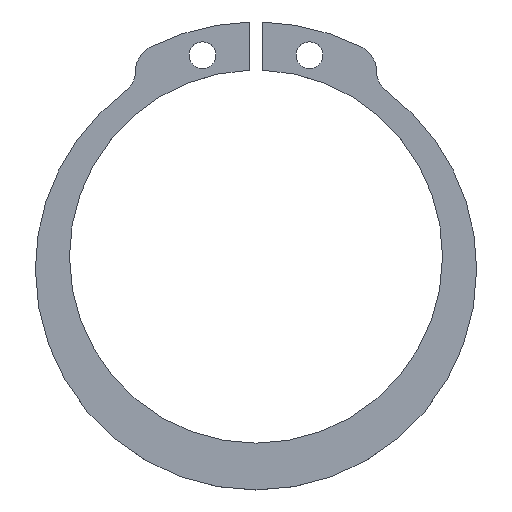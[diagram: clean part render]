
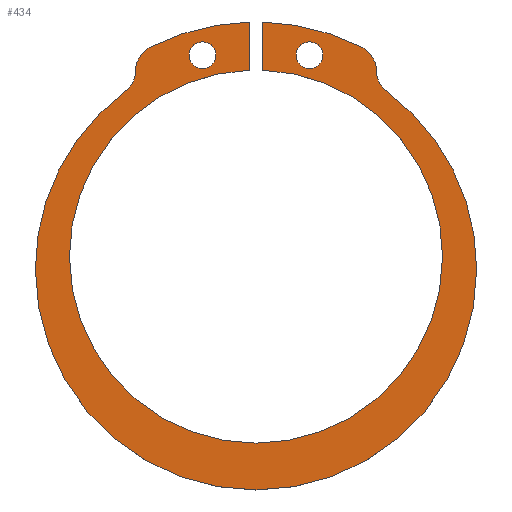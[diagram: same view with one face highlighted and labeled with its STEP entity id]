
A CAD part, top view. The second image highlights one B-rep face of the part: STEP entity #434.
In plain terms, the highlighted planar face has unit normal (0, 0, 1).
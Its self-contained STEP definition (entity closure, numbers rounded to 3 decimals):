
#70=CARTESIAN_POINT('Vertex',(-7.903,15.614,0.75)) ;
#73=CARTESIAN_POINT('Axis2P3D Location',(0.,0.,0.75)) ;
#77=CARTESIAN_POINT('Vertex',(-0.5,17.493,0.75)) ;
#264=CARTESIAN_POINT('Vertex',(-9.,13.829,0.75)) ;
#267=CARTESIAN_POINT('Axis2P3D Location',(-7.,13.829,0.75)) ;
#279=CARTESIAN_POINT('Axis2P3D Location',(-11.,13.874,0.75)) ;
#284=CARTESIAN_POINT('Axis2P3D Location',(-11.,13.874,0.75)) ;
#288=CARTESIAN_POINT('Vertex',(-9.811,12.266,0.75)) ;
#290=CARTESIAN_POINT('Vertex',(-9.,13.874,0.75)) ;
#293=CARTESIAN_POINT('Axis2P3D Location',(0.,-1.,0.75)) ;
#297=CARTESIAN_POINT('Vertex',(-16.5,-1.,0.75)) ;
#300=CARTESIAN_POINT('Axis2P3D Location',(0.,-1.,0.75)) ;
#304=CARTESIAN_POINT('Vertex',(16.5,-1.,0.75)) ;
#307=CARTESIAN_POINT('Axis2P3D Location',(0.,-1.,0.75)) ;
#311=CARTESIAN_POINT('Vertex',(9.811,12.266,0.75)) ;
#314=CARTESIAN_POINT('Axis2P3D Location',(11.,13.874,0.75)) ;
#318=CARTESIAN_POINT('Vertex',(9.,13.874,0.75)) ;
#321=CARTESIAN_POINT('Line Origine',(9.,13.852,0.75)) ;
#325=CARTESIAN_POINT('Vertex',(9.,13.829,0.75)) ;
#328=CARTESIAN_POINT('Axis2P3D Location',(7.,13.829,0.75)) ;
#332=CARTESIAN_POINT('Vertex',(7.903,15.614,0.75)) ;
#335=CARTESIAN_POINT('Axis2P3D Location',(0.,0.,0.75)) ;
#339=CARTESIAN_POINT('Vertex',(0.5,17.493,0.75)) ;
#342=CARTESIAN_POINT('Line Origine',(0.5,15.692,0.75)) ;
#346=CARTESIAN_POINT('Vertex',(0.5,13.891,0.75)) ;
#349=CARTESIAN_POINT('Axis2P3D Location',(0.,-0.05,0.75)) ;
#353=CARTESIAN_POINT('Vertex',(13.95,-0.05,0.75)) ;
#356=CARTESIAN_POINT('Axis2P3D Location',(0.,-0.05,0.75)) ;
#360=CARTESIAN_POINT('Vertex',(-13.95,-0.05,0.75)) ;
#363=CARTESIAN_POINT('Axis2P3D Location',(0.,-0.05,0.75)) ;
#367=CARTESIAN_POINT('Vertex',(-0.5,13.891,0.75)) ;
#370=CARTESIAN_POINT('Line Origine',(-0.5,15.692,0.75)) ;
#375=CARTESIAN_POINT('Line Origine',(-9.,13.852,0.75)) ;
#398=CARTESIAN_POINT('Axis2P3D Location',(4.,15.008,0.75)) ;
#402=CARTESIAN_POINT('Vertex',(3.,15.008,0.75)) ;
#404=CARTESIAN_POINT('Vertex',(5.,15.008,0.75)) ;
#407=CARTESIAN_POINT('Axis2P3D Location',(4.,15.008,0.75)) ;
#416=CARTESIAN_POINT('Axis2P3D Location',(-4.,15.008,0.75)) ;
#420=CARTESIAN_POINT('Vertex',(-5.,15.008,0.75)) ;
#422=CARTESIAN_POINT('Vertex',(-3.,15.008,0.75)) ;
#425=CARTESIAN_POINT('Axis2P3D Location',(-4.,15.008,0.75)) ;
#74=DIRECTION('Axis2P3D Direction',(0.,0.,1.)) ;
#268=DIRECTION('Axis2P3D Direction',(0.,0.,1.)) ;
#280=DIRECTION('Axis2P3D Direction',(0.,0.,1.)) ;
#281=DIRECTION('Axis2P3D XDirection',(1.,0.,-0.)) ;
#285=DIRECTION('Axis2P3D Direction',(0.,0.,1.)) ;
#294=DIRECTION('Axis2P3D Direction',(0.,0.,1.)) ;
#301=DIRECTION('Axis2P3D Direction',(0.,0.,1.)) ;
#308=DIRECTION('Axis2P3D Direction',(0.,0.,1.)) ;
#315=DIRECTION('Axis2P3D Direction',(0.,0.,1.)) ;
#322=DIRECTION('Vector Direction',(0.,-1.,0.)) ;
#329=DIRECTION('Axis2P3D Direction',(0.,0.,1.)) ;
#336=DIRECTION('Axis2P3D Direction',(0.,0.,1.)) ;
#343=DIRECTION('Vector Direction',(0.,-1.,0.)) ;
#350=DIRECTION('Axis2P3D Direction',(0.,0.,1.)) ;
#357=DIRECTION('Axis2P3D Direction',(0.,0.,1.)) ;
#364=DIRECTION('Axis2P3D Direction',(0.,0.,1.)) ;
#371=DIRECTION('Vector Direction',(0.,1.,0.)) ;
#376=DIRECTION('Vector Direction',(0.,1.,0.)) ;
#399=DIRECTION('Axis2P3D Direction',(0.,0.,1.)) ;
#408=DIRECTION('Axis2P3D Direction',(0.,0.,1.)) ;
#417=DIRECTION('Axis2P3D Direction',(0.,0.,1.)) ;
#426=DIRECTION('Axis2P3D Direction',(0.,0.,1.)) ;
#75=AXIS2_PLACEMENT_3D('Circle Axis2P3D',#73,#74,$) ;
#269=AXIS2_PLACEMENT_3D('Circle Axis2P3D',#267,#268,$) ;
#282=AXIS2_PLACEMENT_3D('Plane Axis2P3D',#279,#280,#281) ;
#286=AXIS2_PLACEMENT_3D('Circle Axis2P3D',#284,#285,$) ;
#295=AXIS2_PLACEMENT_3D('Circle Axis2P3D',#293,#294,$) ;
#302=AXIS2_PLACEMENT_3D('Circle Axis2P3D',#300,#301,$) ;
#309=AXIS2_PLACEMENT_3D('Circle Axis2P3D',#307,#308,$) ;
#316=AXIS2_PLACEMENT_3D('Circle Axis2P3D',#314,#315,$) ;
#330=AXIS2_PLACEMENT_3D('Circle Axis2P3D',#328,#329,$) ;
#337=AXIS2_PLACEMENT_3D('Circle Axis2P3D',#335,#336,$) ;
#351=AXIS2_PLACEMENT_3D('Circle Axis2P3D',#349,#350,$) ;
#358=AXIS2_PLACEMENT_3D('Circle Axis2P3D',#356,#357,$) ;
#365=AXIS2_PLACEMENT_3D('Circle Axis2P3D',#363,#364,$) ;
#400=AXIS2_PLACEMENT_3D('Circle Axis2P3D',#398,#399,$) ;
#409=AXIS2_PLACEMENT_3D('Circle Axis2P3D',#407,#408,$) ;
#418=AXIS2_PLACEMENT_3D('Circle Axis2P3D',#416,#417,$) ;
#427=AXIS2_PLACEMENT_3D('Circle Axis2P3D',#425,#426,$) ;
#381=ORIENTED_EDGE('',*,*,#292,.F.) ;
#382=ORIENTED_EDGE('',*,*,#299,.T.) ;
#383=ORIENTED_EDGE('',*,*,#306,.T.) ;
#384=ORIENTED_EDGE('',*,*,#313,.T.) ;
#385=ORIENTED_EDGE('',*,*,#320,.F.) ;
#386=ORIENTED_EDGE('',*,*,#327,.T.) ;
#387=ORIENTED_EDGE('',*,*,#334,.T.) ;
#388=ORIENTED_EDGE('',*,*,#341,.T.) ;
#389=ORIENTED_EDGE('',*,*,#348,.T.) ;
#390=ORIENTED_EDGE('',*,*,#355,.F.) ;
#391=ORIENTED_EDGE('',*,*,#362,.F.) ;
#392=ORIENTED_EDGE('',*,*,#369,.F.) ;
#393=ORIENTED_EDGE('',*,*,#374,.T.) ;
#394=ORIENTED_EDGE('',*,*,#79,.T.) ;
#395=ORIENTED_EDGE('',*,*,#271,.T.) ;
#396=ORIENTED_EDGE('',*,*,#379,.T.) ;
#413=ORIENTED_EDGE('',*,*,#406,.F.) ;
#414=ORIENTED_EDGE('',*,*,#411,.F.) ;
#431=ORIENTED_EDGE('',*,*,#424,.F.) ;
#432=ORIENTED_EDGE('',*,*,#429,.F.) ;
#415=FACE_BOUND('',#412,.T.) ;
#433=FACE_BOUND('',#430,.T.) ;
#323=VECTOR('Line Direction',#322,1.) ;
#344=VECTOR('Line Direction',#343,1.) ;
#372=VECTOR('Line Direction',#371,1.) ;
#377=VECTOR('Line Direction',#376,1.) ;
#434=ADVANCED_FACE('553S-R30',(#397,#415,#433),#283,.T.) ;
#76=CIRCLE('generated circle',#75,17.5) ;
#270=CIRCLE('generated circle',#269,2.) ;
#287=CIRCLE('generated circle',#286,2.) ;
#296=CIRCLE('generated circle',#295,16.5) ;
#303=CIRCLE('generated circle',#302,16.5) ;
#310=CIRCLE('generated circle',#309,16.5) ;
#317=CIRCLE('generated circle',#316,2.) ;
#331=CIRCLE('generated circle',#330,2.) ;
#338=CIRCLE('generated circle',#337,17.5) ;
#352=CIRCLE('generated circle',#351,13.95) ;
#359=CIRCLE('generated circle',#358,13.95) ;
#366=CIRCLE('generated circle',#365,13.95) ;
#401=CIRCLE('generated circle',#400,1.) ;
#410=CIRCLE('generated circle',#409,1.) ;
#419=CIRCLE('generated circle',#418,1.) ;
#428=CIRCLE('generated circle',#427,1.) ;
#79=EDGE_CURVE('',#78,#71,#76,.T.) ;
#271=EDGE_CURVE('',#71,#265,#270,.T.) ;
#292=EDGE_CURVE('',#289,#291,#287,.T.) ;
#299=EDGE_CURVE('',#289,#298,#296,.T.) ;
#306=EDGE_CURVE('',#298,#305,#303,.T.) ;
#313=EDGE_CURVE('',#305,#312,#310,.T.) ;
#320=EDGE_CURVE('',#319,#312,#317,.T.) ;
#327=EDGE_CURVE('',#319,#326,#324,.T.) ;
#334=EDGE_CURVE('',#326,#333,#331,.T.) ;
#341=EDGE_CURVE('',#333,#340,#338,.T.) ;
#348=EDGE_CURVE('',#340,#347,#345,.T.) ;
#355=EDGE_CURVE('',#354,#347,#352,.T.) ;
#362=EDGE_CURVE('',#361,#354,#359,.T.) ;
#369=EDGE_CURVE('',#368,#361,#366,.T.) ;
#374=EDGE_CURVE('',#368,#78,#373,.T.) ;
#379=EDGE_CURVE('',#265,#291,#378,.T.) ;
#406=EDGE_CURVE('',#403,#405,#401,.T.) ;
#411=EDGE_CURVE('',#405,#403,#410,.T.) ;
#424=EDGE_CURVE('',#421,#423,#419,.T.) ;
#429=EDGE_CURVE('',#423,#421,#428,.T.) ;
#380=EDGE_LOOP('',(#381,#382,#383,#384,#385,#386,#387,#388,#389,#390,#391,#392,#393,#394,#395,#396)) ;
#412=EDGE_LOOP('',(#413,#414)) ;
#430=EDGE_LOOP('',(#431,#432)) ;
#397=FACE_OUTER_BOUND('',#380,.T.) ;
#324=LINE('Line',#321,#323) ;
#345=LINE('Line',#342,#344) ;
#373=LINE('Line',#370,#372) ;
#378=LINE('Line',#375,#377) ;
#283=PLANE('Plane',#282) ;
#71=VERTEX_POINT('',#70) ;
#78=VERTEX_POINT('',#77) ;
#265=VERTEX_POINT('',#264) ;
#289=VERTEX_POINT('',#288) ;
#291=VERTEX_POINT('',#290) ;
#298=VERTEX_POINT('',#297) ;
#305=VERTEX_POINT('',#304) ;
#312=VERTEX_POINT('',#311) ;
#319=VERTEX_POINT('',#318) ;
#326=VERTEX_POINT('',#325) ;
#333=VERTEX_POINT('',#332) ;
#340=VERTEX_POINT('',#339) ;
#347=VERTEX_POINT('',#346) ;
#354=VERTEX_POINT('',#353) ;
#361=VERTEX_POINT('',#360) ;
#368=VERTEX_POINT('',#367) ;
#403=VERTEX_POINT('',#402) ;
#405=VERTEX_POINT('',#404) ;
#421=VERTEX_POINT('',#420) ;
#423=VERTEX_POINT('',#422) ;
